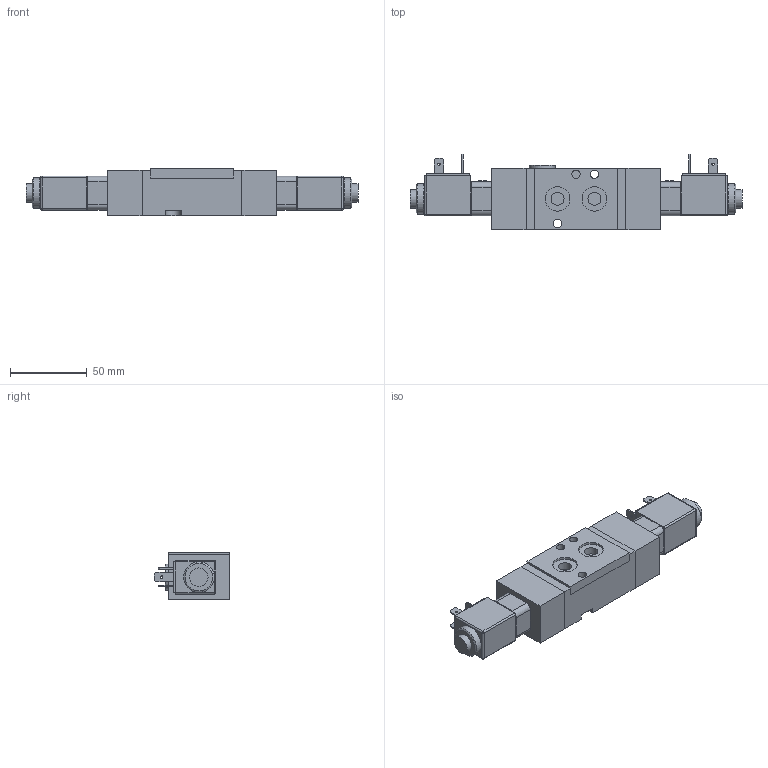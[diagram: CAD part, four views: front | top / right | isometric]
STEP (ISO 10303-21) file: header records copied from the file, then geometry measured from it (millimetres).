
FILE_DESCRIPTION((''),'2;1');
FILE_NAME('I:\Area Tecnica\Disegni\VARIE-3D\Componenti\T514\3D\T514_42_00_35_B#.stp','2008-05-09T11:21:17',('foiengi1'),(''),'Autodesk Inventor 2008','Autodesk Inventor 2008','');
FILE_SCHEMA(('AUTOMOTIVE_DESIGN { 1 0 10303 214 1 1 1 1 }'));
Length unit declared in the file: millimetre
Products named in the file (3): T514_42_00_35_B#; T514_42_00_35_B00; MB
Assembly tree (3 placements, depth 2):
  T514_42_00_35_B#
    T514_42_00_35_B00
    MB  x2
Bounding box: 216 x 49 x 31 mm (x, y, z)
Volume: 180525.5 mm3; surface area: 37291.2 mm2
Topology: 3 solids, 3 shells, 241 faces, 541 edges, 352 vertices
Faces by surface type: plane 129, bspline 70, cylinder 37, sphere 4, cone 1
Full cylindrical faces by diameter (mm): 5.5 x3, 7.4 x1, 8.2 x4, 9.8 x1, 10 x1, 10.2 x2, 12 x1, 13 x1, 13.5 x1, 16 x2, 16.2 x2, 17 x1, 20 x1
Entity records: 5646 total; most frequent: CARTESIAN_POINT 1480, DIRECTION 753, ORIENTED_EDGE 724, EDGE_CURVE 362, EDGE_LOOP 295, VERTEX_POINT 267, AXIS2_PLACEMENT_3D 258, VECTOR 237
